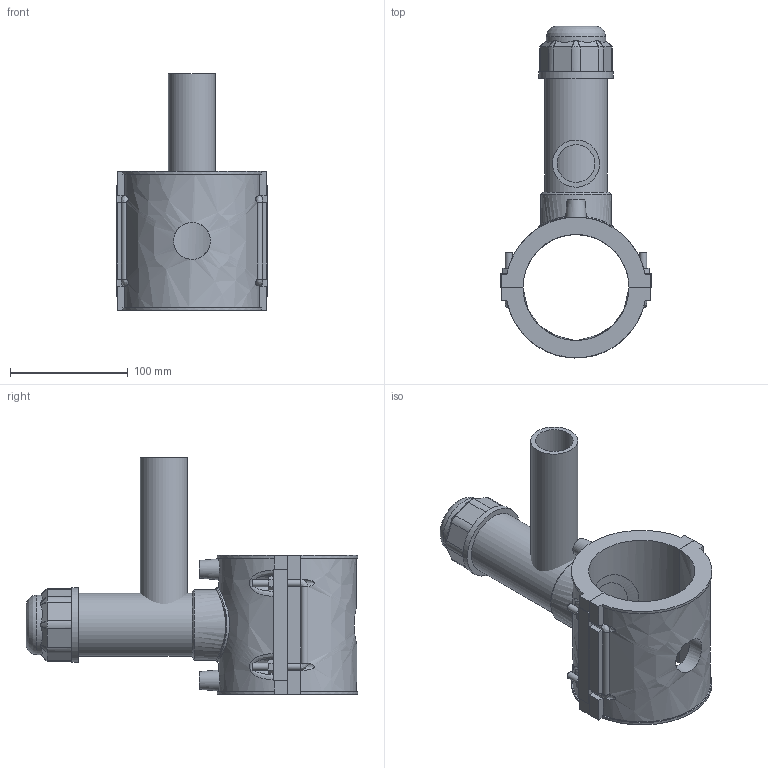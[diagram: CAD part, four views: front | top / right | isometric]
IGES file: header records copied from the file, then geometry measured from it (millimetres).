
Global section: file name: 4963P4090040; native system: Autodesk Inventor 2019; preprocessor: unknown; author: KIM; date: 20220317.112704; units: millimetre
Bounding box: 128 x 281.65 x 201 mm (x, y, z)
Volume: 847343.2 mm3; surface area: 195322.9 mm2
Topology: 3 solids, 3 shells, 218 faces, 555 edges, 360 vertices
Faces by surface type: bspline 218
